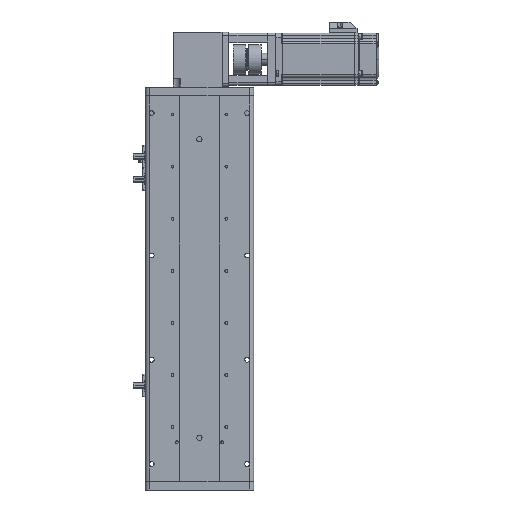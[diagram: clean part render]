
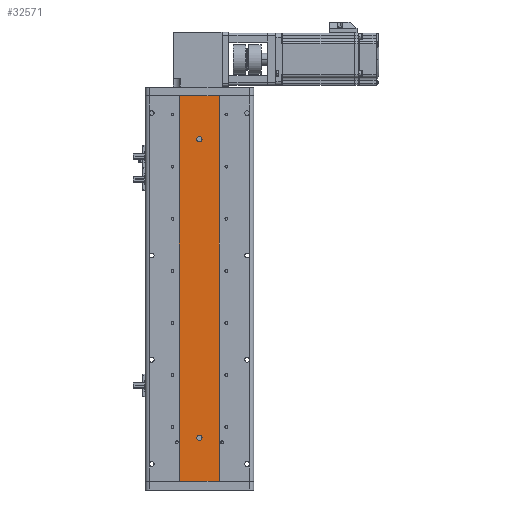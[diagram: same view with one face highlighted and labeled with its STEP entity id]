
A CAD part, front view. The second image highlights one B-rep face of the part: STEP entity #32571.
In plain terms, the highlighted planar face has unit normal (0, -1, 0).
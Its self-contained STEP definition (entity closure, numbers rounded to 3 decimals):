
#44 = DIRECTION ( 'NONE',  ( 0., 0., -1. ) ) ;
#2055 = ORIENTED_EDGE ( 'NONE', *, *, #33530, .F. ) ;
#2292 = CARTESIAN_POINT ( 'NONE',  ( 0., 1., 175. ) ) ;
#3634 = AXIS2_PLACEMENT_3D ( 'NONE', #23224, #54640, #27736 ) ;
#4104 = LINE ( 'NONE', #45324, #49174 ) ;
#7168 = VERTEX_POINT ( 'NONE', #29390 ) ;
#7493 = DIRECTION ( 'NONE',  ( 0., -1., 0. ) ) ;
#7636 = ORIENTED_EDGE ( 'NONE', *, *, #23766, .F. ) ;
#8529 = ORIENTED_EDGE ( 'NONE', *, *, #19033, .F. ) ;
#8583 = EDGE_CURVE ( 'NONE', #30883, #39783, #53461, .T. ) ;
#10047 = CARTESIAN_POINT ( 'NONE',  ( 23., 1., -222. ) ) ;
#10817 = CARTESIAN_POINT ( 'NONE',  ( 0., 1., -169. ) ) ;
#10882 = CARTESIAN_POINT ( 'NONE',  ( 23., 1., 222.001 ) ) ;
#11337 = EDGE_LOOP ( 'NONE', ( #8529, #40920 ) ) ;
#11596 = CARTESIAN_POINT ( 'NONE',  ( 23., 1., 222. ) ) ;
#11759 = AXIS2_PLACEMENT_3D ( 'NONE', #53921, #27031, #44 ) ;
#13084 = EDGE_CURVE ( 'NONE', #24608, #55902, #26635, .T. ) ;
#14225 = DIRECTION ( 'NONE',  ( 0., -1., 0. ) ) ;
#14655 = CIRCLE ( 'NONE', #51295, 3. ) ;
#15644 = ORIENTED_EDGE ( 'NONE', *, *, #13084, .F. ) ;
#16938 = CARTESIAN_POINT ( 'NONE',  ( 0., 1., -175. ) ) ;
#19033 = EDGE_CURVE ( 'NONE', #7168, #58031, #29707, .T. ) ;
#20017 = EDGE_LOOP ( 'NONE', ( #34187, #36376, #30820, #15644 ) ) ;
#20606 = PLANE ( 'NONE',  #22640 ) ;
#21136 = CARTESIAN_POINT ( 'NONE',  ( -23., 1., -222. ) ) ;
#22640 = AXIS2_PLACEMENT_3D ( 'NONE', #25167, #56515, #29667 ) ;
#23224 = CARTESIAN_POINT ( 'NONE',  ( 0., 1., 172. ) ) ;
#23766 = EDGE_CURVE ( 'NONE', #57186, #35906, #34329, .T. ) ;
#23836 = VECTOR ( 'NONE', #38033, 1000. ) ;
#24076 = EDGE_CURVE ( 'NONE', #58031, #7168, #44167, .T. ) ;
#24423 = CARTESIAN_POINT ( 'NONE',  ( 23., 1., -222. ) ) ;
#24608 = VERTEX_POINT ( 'NONE', #45742 ) ;
#25167 = CARTESIAN_POINT ( 'NONE',  ( 23., 1., 222.001 ) ) ;
#26635 = LINE ( 'NONE', #56763, #49151 ) ;
#27031 = DIRECTION ( 'NONE',  ( 0., -1., 0. ) ) ;
#27736 = DIRECTION ( 'NONE',  ( 0., 0., -1. ) ) ;
#29390 = CARTESIAN_POINT ( 'NONE',  ( 0., 1., 169. ) ) ;
#29571 = VECTOR ( 'NONE', #46601, 1000. ) ;
#29667 = DIRECTION ( 'NONE',  ( 0., 0., 1. ) ) ;
#29707 = CIRCLE ( 'NONE', #11759, 3. ) ;
#30820 = ORIENTED_EDGE ( 'NONE', *, *, #41240, .F. ) ;
#30838 = FACE_BOUND ( 'NONE', #11337, .T. ) ;
#30883 = VERTEX_POINT ( 'NONE', #21136 ) ;
#32055 = EDGE_LOOP ( 'NONE', ( #7636, #2055 ) ) ;
#32571 = ADVANCED_FACE ( 'NONE', ( #30838, #49108, #37121 ), #20606, .F. ) ;
#33530 = EDGE_CURVE ( 'NONE', #35906, #57186, #14655, .T. ) ;
#34187 = ORIENTED_EDGE ( 'NONE', *, *, #45653, .T. ) ;
#34329 = CIRCLE ( 'NONE', #39064, 3. ) ;
#34395 = DIRECTION ( 'NONE',  ( 1., 0., 0. ) ) ;
#34420 = CARTESIAN_POINT ( 'NONE',  ( 0., 1., -172. ) ) ;
#35776 = LINE ( 'NONE', #10882, #23836 ) ;
#35906 = VERTEX_POINT ( 'NONE', #10817 ) ;
#36376 = ORIENTED_EDGE ( 'NONE', *, *, #8583, .T. ) ;
#37121 = FACE_OUTER_BOUND ( 'NONE', #20017, .T. ) ;
#38033 = DIRECTION ( 'NONE',  ( 0., 0., -1. ) ) ;
#38967 = DIRECTION ( 'NONE',  ( 0., 0., -1. ) ) ;
#39064 = AXIS2_PLACEMENT_3D ( 'NONE', #34420, #7493, #38967 ) ;
#39783 = VERTEX_POINT ( 'NONE', #10047 ) ;
#40920 = ORIENTED_EDGE ( 'NONE', *, *, #24076, .F. ) ;
#41117 = CARTESIAN_POINT ( 'NONE',  ( 0., 1., -172. ) ) ;
#41240 = EDGE_CURVE ( 'NONE', #55902, #39783, #35776, .T. ) ;
#44167 = CIRCLE ( 'NONE', #3634, 3. ) ;
#45324 = CARTESIAN_POINT ( 'NONE',  ( -23., 1., 222.001 ) ) ;
#45636 = DIRECTION ( 'NONE',  ( 0., 0., -1. ) ) ;
#45653 = EDGE_CURVE ( 'NONE', #24608, #30883, #4104, .T. ) ;
#45742 = CARTESIAN_POINT ( 'NONE',  ( -23., 1., 222. ) ) ;
#46601 = DIRECTION ( 'NONE',  ( 1., 0., 0. ) ) ;
#49108 = FACE_BOUND ( 'NONE', #32055, .T. ) ;
#49151 = VECTOR ( 'NONE', #34395, 1000. ) ;
#49174 = VECTOR ( 'NONE', #49858, 1000. ) ;
#49858 = DIRECTION ( 'NONE',  ( 0., 0., -1. ) ) ;
#51295 = AXIS2_PLACEMENT_3D ( 'NONE', #41117, #14225, #45636 ) ;
#53461 = LINE ( 'NONE', #24423, #29571 ) ;
#53921 = CARTESIAN_POINT ( 'NONE',  ( 0., 1., 172. ) ) ;
#54640 = DIRECTION ( 'NONE',  ( 0., -1., 0. ) ) ;
#55902 = VERTEX_POINT ( 'NONE', #11596 ) ;
#56515 = DIRECTION ( 'NONE',  ( 0., 1., 0. ) ) ;
#56763 = CARTESIAN_POINT ( 'NONE',  ( 23., 1., 222. ) ) ;
#57186 = VERTEX_POINT ( 'NONE', #16938 ) ;
#58031 = VERTEX_POINT ( 'NONE', #2292 ) ;
